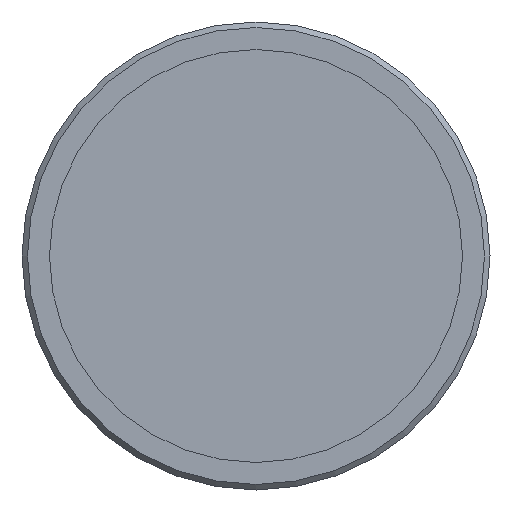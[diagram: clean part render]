
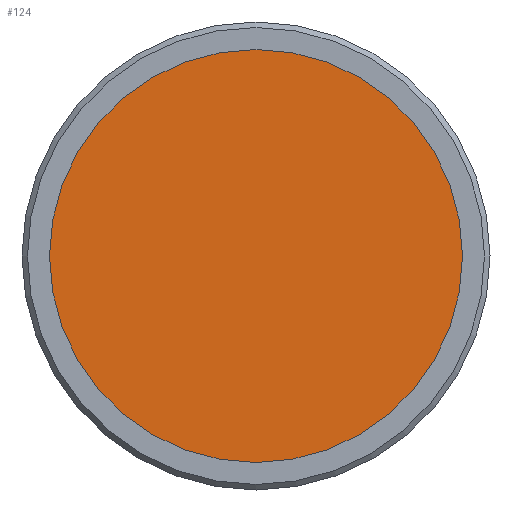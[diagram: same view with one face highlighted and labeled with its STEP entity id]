
A CAD part, left-side view. The second image highlights one B-rep face of the part: STEP entity #124.
In plain terms, the highlighted planar face has unit normal (-1, 0, 0).
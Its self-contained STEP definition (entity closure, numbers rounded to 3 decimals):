
#23=PLANE('',#144);
#40=FACE_OUTER_BOUND('',#56,.T.);
#56=EDGE_LOOP('',(#106));
#71=CIRCLE('',#143,3.75);
#81=VERTEX_POINT('',#215);
#91=EDGE_CURVE('',#81,#81,#71,.T.);
#106=ORIENTED_EDGE('',*,*,#91,.T.);
#124=ADVANCED_FACE('',(#40),#23,.F.);
#143=AXIS2_PLACEMENT_3D('',#216,#178,#179);
#144=AXIS2_PLACEMENT_3D('',#217,#180,#181);
#178=DIRECTION('center_axis',(-1.,0.,0.));
#179=DIRECTION('ref_axis',(0.,0.,-1.));
#180=DIRECTION('center_axis',(1.,0.,0.));
#181=DIRECTION('ref_axis',(0.,0.,-1.));
#215=CARTESIAN_POINT('',(-9.9,0.,3.75));
#216=CARTESIAN_POINT('Origin',(-9.9,0.,0.));
#217=CARTESIAN_POINT('Origin',(-9.9,0.,0.));
